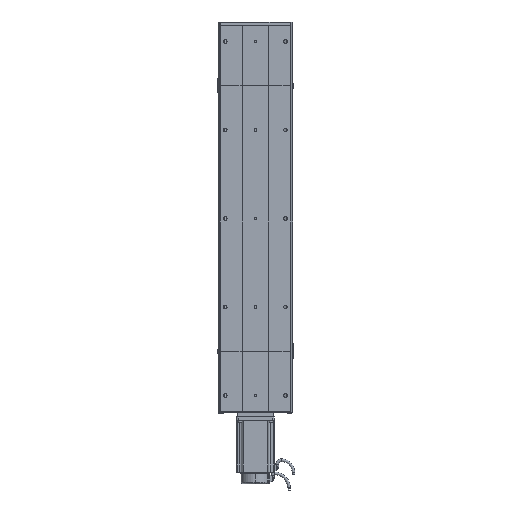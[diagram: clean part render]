
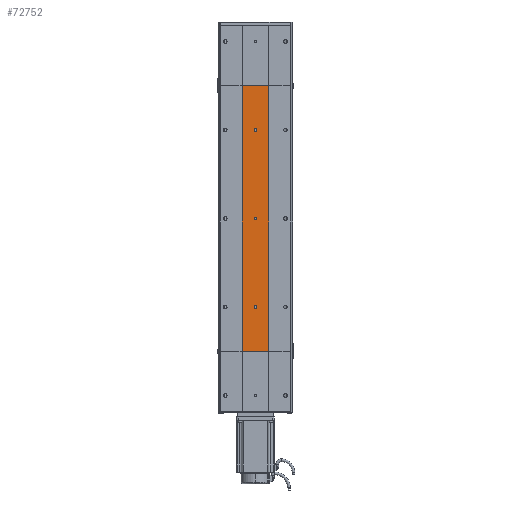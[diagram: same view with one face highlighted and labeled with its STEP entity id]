
A CAD part, front view. The second image highlights one B-rep face of the part: STEP entity #72752.
In plain terms, the highlighted planar face has unit normal (0, -1, 0).
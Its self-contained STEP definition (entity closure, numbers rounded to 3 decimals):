
#152 = ORIENTED_EDGE ( 'NONE', *, *, #72136, .T. ) ;
#27954 = CARTESIAN_POINT ( 'NONE',  ( 0., -32.5, 297. ) ) ;
#28041 = CARTESIAN_POINT ( 'NONE',  ( 0., -32.5, 300. ) ) ;
#28115 = DIRECTION ( 'NONE',  ( 0., 0., -1. ) ) ;
#28116 = DIRECTION ( 'NONE',  ( 0., -1., 0. ) ) ;
#28117 = AXIS2_PLACEMENT_3D ( 'NONE', #28041, #28116, #28115 ) ;
#28128 = CIRCLE ( 'NONE', #28117, 3. ) ;
#28230 = AXIS2_PLACEMENT_3D ( 'NONE', #28239, #28238, #28237 ) ;
#28237 = DIRECTION ( 'NONE',  ( 0., 0., -1. ) ) ;
#28238 = DIRECTION ( 'NONE',  ( 0., -1., 0. ) ) ;
#28239 = CARTESIAN_POINT ( 'NONE',  ( 0., -32.5, 500. ) ) ;
#28258 = CARTESIAN_POINT ( 'NONE',  ( 0., -32.5, 303. ) ) ;
#28292 = CARTESIAN_POINT ( 'NONE',  ( 0., -32.5, 497. ) ) ;
#28310 = CIRCLE ( 'NONE', #28230, 3. ) ;
#28423 = CARTESIAN_POINT ( 'NONE',  ( 0., -32.5, 503. ) ) ;
#28760 = DIRECTION ( 'NONE',  ( 0., 0., -1. ) ) ;
#28761 = DIRECTION ( 'NONE',  ( 0., -1., 0. ) ) ;
#28762 = CARTESIAN_POINT ( 'NONE',  ( 0., -32.5, 100. ) ) ;
#28768 = AXIS2_PLACEMENT_3D ( 'NONE', #28762, #28761, #28760 ) ;
#28770 = CARTESIAN_POINT ( 'NONE',  ( 0., -32.5, 97. ) ) ;
#28776 = CIRCLE ( 'NONE', #28768, 3. ) ;
#28818 = CARTESIAN_POINT ( 'NONE',  ( 0., -32.5, 103. ) ) ;
#31202 = CARTESIAN_POINT ( 'NONE',  ( -30., -32.5, 600. ) ) ;
#31219 = CARTESIAN_POINT ( 'NONE',  ( -30., -32.5, 600. ) ) ;
#31220 = LINE ( 'NONE', #31219, #31257 ) ;
#31256 = DIRECTION ( 'NONE',  ( -1., 0., 0. ) ) ;
#31257 = VECTOR ( 'NONE', #31256, 1000. ) ;
#31465 = CARTESIAN_POINT ( 'NONE',  ( 30., -32.5, 600. ) ) ;
#31559 = CARTESIAN_POINT ( 'NONE',  ( -30., -32.5, 0. ) ) ;
#31643 = DIRECTION ( 'NONE',  ( -1., 0., 0. ) ) ;
#31644 = VECTOR ( 'NONE', #31643, 1000. ) ;
#31645 = CARTESIAN_POINT ( 'NONE',  ( -30., -32.5, 0. ) ) ;
#31646 = LINE ( 'NONE', #31645, #31644 ) ;
#31823 = CARTESIAN_POINT ( 'NONE',  ( 30., -32.5, 0. ) ) ;
#61816 = DIRECTION ( 'NONE',  ( 0., 0., 1. ) ) ;
#61818 = DIRECTION ( 'NONE',  ( 0., 1., 0. ) ) ;
#61819 = FACE_BOUND ( 'NONE', #72808, .T. ) ;
#61911 = CARTESIAN_POINT ( 'NONE',  ( -30., -32.5, 0. ) ) ;
#61913 = FACE_OUTER_BOUND ( 'NONE', #70425, .T. ) ;
#61915 = AXIS2_PLACEMENT_3D ( 'NONE', #61911, #61818, #61816 ) ;
#61924 = PLANE ( 'NONE',  #61915 ) ;
#61927 = FACE_BOUND ( 'NONE', #72900, .T. ) ;
#61931 = DIRECTION ( 'NONE',  ( 0., 0., -1. ) ) ;
#61933 = DIRECTION ( 'NONE',  ( 0., -1., 0. ) ) ;
#61934 = CARTESIAN_POINT ( 'NONE',  ( 0., -32.5, 300. ) ) ;
#61936 = AXIS2_PLACEMENT_3D ( 'NONE', #61934, #61933, #61931 ) ;
#61980 = CIRCLE ( 'NONE', #61936, 3. ) ;
#61997 = FACE_BOUND ( 'NONE', #72903, .T. ) ;
#62577 = DIRECTION ( 'NONE',  ( 0., 0., 1. ) ) ;
#62578 = VECTOR ( 'NONE', #62577, 1000. ) ;
#62581 = CARTESIAN_POINT ( 'NONE',  ( 30., -32.5, 0. ) ) ;
#62583 = LINE ( 'NONE', #62581, #62578 ) ;
#62882 = DIRECTION ( 'NONE',  ( 0., 0., -1. ) ) ;
#62955 = AXIS2_PLACEMENT_3D ( 'NONE', #62972, #62988, #62882 ) ;
#62972 = CARTESIAN_POINT ( 'NONE',  ( 0., -32.5, 500. ) ) ;
#62988 = DIRECTION ( 'NONE',  ( 0., -1., 0. ) ) ;
#62993 = CIRCLE ( 'NONE', #62955, 3. ) ;
#63307 = DIRECTION ( 'NONE',  ( 0., 0., -1. ) ) ;
#63308 = DIRECTION ( 'NONE',  ( 0., -1., 0. ) ) ;
#63327 = DIRECTION ( 'NONE',  ( 0., 0., 1. ) ) ;
#63329 = VECTOR ( 'NONE', #63327, 1000. ) ;
#63346 = CARTESIAN_POINT ( 'NONE',  ( -30., -32.5, 0. ) ) ;
#63347 = LINE ( 'NONE', #63346, #63329 ) ;
#63416 = AXIS2_PLACEMENT_3D ( 'NONE', #63480, #63308, #63307 ) ;
#63427 = CIRCLE ( 'NONE', #63416, 3. ) ;
#63480 = CARTESIAN_POINT ( 'NONE',  ( 0., -32.5, 100. ) ) ;
#70425 = EDGE_LOOP ( 'NONE', ( #152, #72778, #72862, #72768 ) ) ;
#70573 = EDGE_CURVE ( 'NONE', #70711, #70574, #28128, .T. ) ;
#70574 = VERTEX_POINT ( 'NONE', #27954 ) ;
#70657 = EDGE_CURVE ( 'NONE', #70774, #70666, #28310, .T. ) ;
#70666 = VERTEX_POINT ( 'NONE', #28292 ) ;
#70711 = VERTEX_POINT ( 'NONE', #28258 ) ;
#70774 = VERTEX_POINT ( 'NONE', #28423 ) ;
#70986 = VERTEX_POINT ( 'NONE', #28818 ) ;
#70987 = VERTEX_POINT ( 'NONE', #28770 ) ;
#70988 = EDGE_CURVE ( 'NONE', #70986, #70987, #28776, .T. ) ;
#72130 = VERTEX_POINT ( 'NONE', #31202 ) ;
#72136 = EDGE_CURVE ( 'NONE', #72375, #72130, #31220, .T. ) ;
#72375 = VERTEX_POINT ( 'NONE', #31465 ) ;
#72405 = EDGE_CURVE ( 'NONE', #72472, #72445, #31646, .T. ) ;
#72445 = VERTEX_POINT ( 'NONE', #31559 ) ;
#72472 = VERTEX_POINT ( 'NONE', #31823 ) ;
#72569 = ORIENTED_EDGE ( 'NONE', *, *, #70988, .F. ) ;
#72733 = ORIENTED_EDGE ( 'NONE', *, *, #72744, .F. ) ;
#72744 = EDGE_CURVE ( 'NONE', #70574, #70711, #61980, .T. ) ;
#72749 = ORIENTED_EDGE ( 'NONE', *, *, #72968, .F. ) ;
#72751 = ORIENTED_EDGE ( 'NONE', *, *, #70657, .F. ) ;
#72752 = ADVANCED_FACE ( 'NONE', ( #61997, #61927, #61819, #61913 ), #61924, .F. ) ;
#72768 = ORIENTED_EDGE ( 'NONE', *, *, #72779, .T. ) ;
#72778 = ORIENTED_EDGE ( 'NONE', *, *, #72986, .F. ) ;
#72779 = EDGE_CURVE ( 'NONE', #72472, #72375, #62583, .T. ) ;
#72808 = EDGE_LOOP ( 'NONE', ( #72749, #72569 ) ) ;
#72862 = ORIENTED_EDGE ( 'NONE', *, *, #72405, .F. ) ;
#72900 = EDGE_LOOP ( 'NONE', ( #72733, #72967 ) ) ;
#72903 = EDGE_LOOP ( 'NONE', ( #72984, #72751 ) ) ;
#72931 = EDGE_CURVE ( 'NONE', #70666, #70774, #62993, .T. ) ;
#72967 = ORIENTED_EDGE ( 'NONE', *, *, #70573, .F. ) ;
#72968 = EDGE_CURVE ( 'NONE', #70987, #70986, #63427, .T. ) ;
#72984 = ORIENTED_EDGE ( 'NONE', *, *, #72931, .F. ) ;
#72986 = EDGE_CURVE ( 'NONE', #72445, #72130, #63347, .T. ) ;
